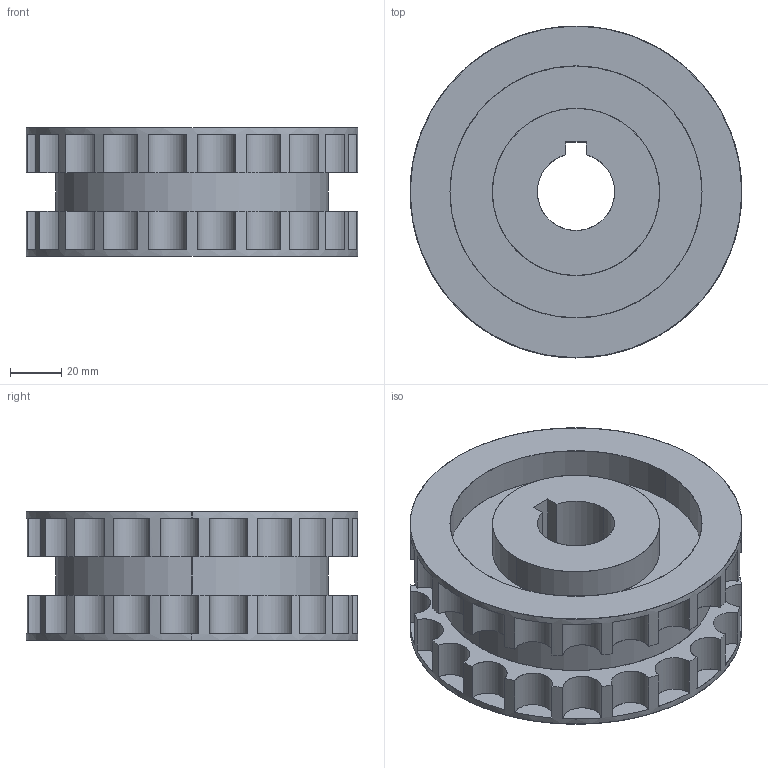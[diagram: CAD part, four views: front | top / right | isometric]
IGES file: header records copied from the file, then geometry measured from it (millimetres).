
Start section: SolidWorks IGES file using analytic representation for surfaces
Global section: file name: C:\Documents and Settings\URETIM3\Desktop\yeni katalog tolgay\328 KI1 221.IGS; native system: SolidWorks 2006 by SolidWorks Corporation; preprocessor: SolidWorks 2006 by SolidWorks Corporation; author: URETIM3; date: 061108.110120; units: millimetre
Bounding box: 129 x 129 x 50 mm (x, y, z)
Surface area: 75681.8 mm2 (no closed solid volume)
Topology: 0 solids, 0 shells, 132 faces, 2930 edges, 2930 vertices
Faces by surface type: revolution 79, bspline 53
